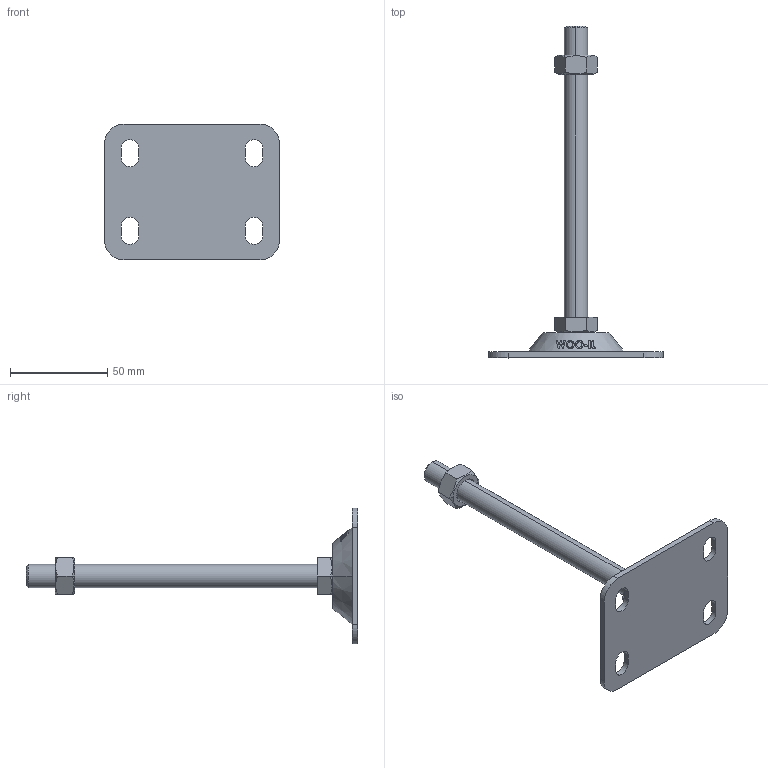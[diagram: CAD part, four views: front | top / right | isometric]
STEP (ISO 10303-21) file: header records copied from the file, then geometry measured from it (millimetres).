
FILE_DESCRIPTION (( 'STEP AP214' ), '1' );
FILE_NAME ('FABL7090-M12-150.step', '2021-03-28T23:50:53', ( '' ), ( '' ), 'SwSTEP 2.0', 'SolidWorks 2019', '' );
FILE_SCHEMA (( 'AUTOMOTIVE_DESIGN' ));
Length unit declared in the file: millimetre
Products named in the file (2): FABL7090-M12-150
Bounding box: 90 x 171 x 70 mm (x, y, z)
Volume: 52698.7 mm3; surface area: 21252.5 mm2
Topology: 2 solids, 2 shells, 142 faces, 369 edges, 242 vertices
Faces by surface type: plane 58, cylinder 44, cone 22, bspline 18
Entity records: 5925 total; most frequent: CARTESIAN_POINT 2627, ORIENTED_EDGE 738, DIRECTION 553, EDGE_CURVE 369, VERTEX_POINT 242, AXIS2_PLACEMENT_3D 198, EDGE_LOOP 163, LINE 157
